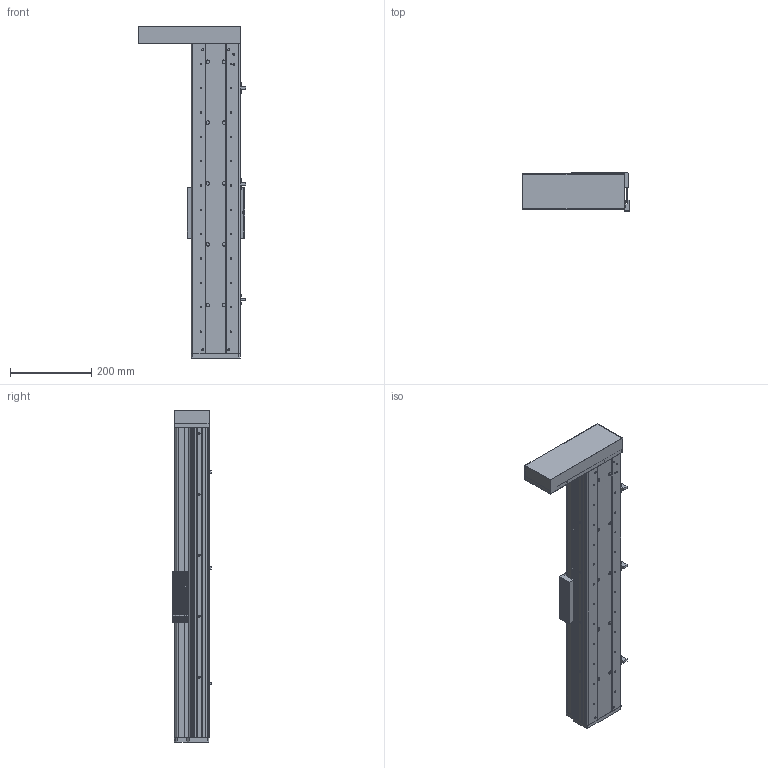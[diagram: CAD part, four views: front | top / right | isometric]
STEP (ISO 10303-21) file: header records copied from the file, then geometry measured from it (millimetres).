
FILE_DESCRIPTION (( 'STEP AP214' ), '1' );
FILE_NAME ('CF120B-C-550-FWL.STEP', '2020-01-15T08:51:42', ( '微软用户' ), ( '微软中国' ), 'SwSTEP 2.0', 'SolidWorks 2016', '' );
FILE_SCHEMA (( 'AUTOMOTIVE_DESIGN' ));
Length unit declared in the file: millimetre
Products named in the file (14): CF120-2-1賑雄輸; EGR15絳寢-550; EGH-15-CABZnew; CF120B臏倰第-550; CF120B-C-550-FWL; 嫖萇羲壽; 75-86-95癹弇羲壽覜茼え; 120B酘殏殏萇儂啣; CF120-2嘐隅釱 - 萵掛; 殏俔肮祭謫欶; CF120-2耜啣; CF120-2盓厥釱; CF120B裔啣-550; CF120-2-2賑雄啣
Assembly tree (19 placements, depth 2):
  CF120B-C-550-FWL
    CF120B臏倰第-550
    EGH-15-CABZnew  x4
    EGR15絳寢-550  x2
    CF120-2-1賑雄輸
    CF120-2-2賑雄啣
    CF120B裔啣-550
    CF120-2盓厥釱
    CF120-2耜啣
    殏俔肮祭謫欶
    CF120-2嘐隅釱 - 萵掛
    120B酘殏殏萇儂啣
    75-86-95癹弇羲壽覜茼え
    嫖萇羲壽  x3
Bounding box: 264.6 x 94.1 x 818 mm (x, y, z)
Volume: 3199872.2 mm3; surface area: 1326497.3 mm2
Topology: 15 solids, 67 shells, 7287 faces, 27673 edges, 19036 vertices
Faces by surface type: plane 3530, bspline 2348, cylinder 1037, cone 148, torus 128, sphere 96
Entity records: 131979 total; most frequent: CARTESIAN_POINT 42450, ORIENTED_EDGE 15418, DIRECTION 12226, EDGE_CURVE 8833, VERTEX_POINT 6047, LINE 5120, VECTOR 5120, AXIS2_PLACEMENT_3D 3553
